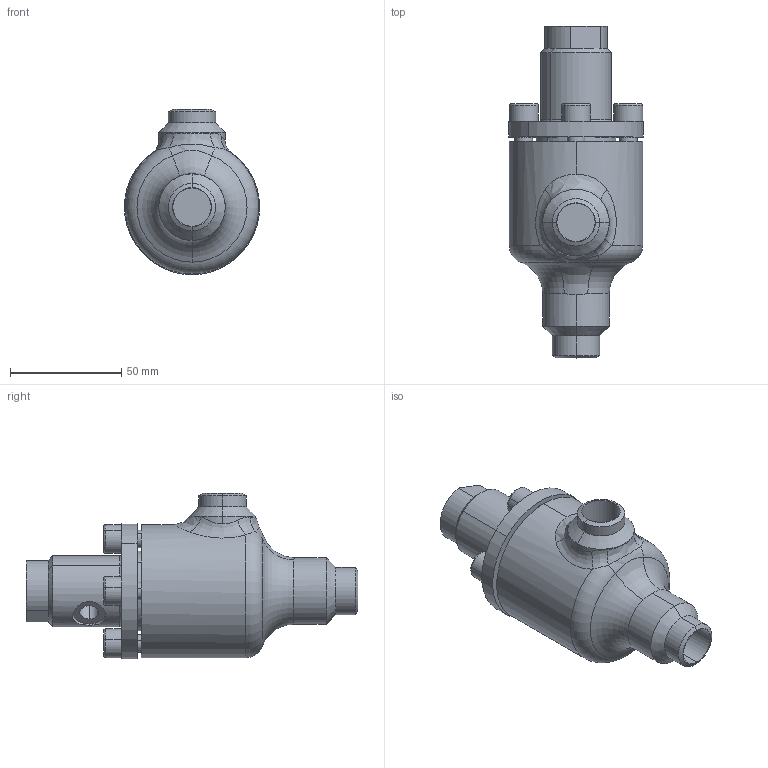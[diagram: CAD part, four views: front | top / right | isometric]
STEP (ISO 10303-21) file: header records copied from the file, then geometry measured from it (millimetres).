
FILE_DESCRIPTION (( 'STEP AP214' ), '1' );
FILE_NAME ('RVD4280xC10-DN15_1-3bar.STEP', '2007-01-10T14:54:53', ( 'Herr Grams' ), ( 'AWP GmbH' ), 'SwSTEP 2.0', 'SolidWorks 2002296', '' );
FILE_SCHEMA (( 'AUTOMOTIVE_DESIGN' ));
Length unit declared in the file: millimetre
Products named in the file (6): RVD4280xC10-DN15_1-3bar; RVD42700K10_Deck+Schr-DN10-20_1-3bar_Standard; Deckel42700K10-DN10-20_1-3bar_PS40_Standard; Zylinderschraube-DIN912_M 8x 16; Gehäuse16400-DN015_Standard; Verschlußschr4270xE10-DN10-20_1-3bar_M10x  46_1bar
Assembly tree (8 placements, depth 3):
  RVD4280xC10-DN15_1-3bar
    Verschlußschr4270xE10-DN10-20_1-3bar_M10x  46_1bar
    Gehäuse16400-DN015_Standard
    RVD42700K10_Deck+Schr-DN10-20_1-3bar_Standard
      Deckel42700K10-DN10-20_1-3bar_PS40_Standard
      Zylinderschraube-DIN912_M 8x 16  x4
Bounding box: 60.77 x 149.5 x 74.38 mm (x, y, z)
Volume: 231883.8 mm3; surface area: 48428.6 mm2
Topology: 7 solids, 7 shells, 182 faces, 388 edges, 243 vertices
Faces by surface type: cylinder 73, plane 64, cone 24, torus 13, bspline 8
Entity records: 13773 total; most frequent: CARTESIAN_POINT 10509, DIRECTION 668, ORIENTED_EDGE 548, AXIS2_PLACEMENT_3D 283, EDGE_CURVE 274, VERTEX_POINT 171, EDGE_LOOP 157, CIRCLE 151
